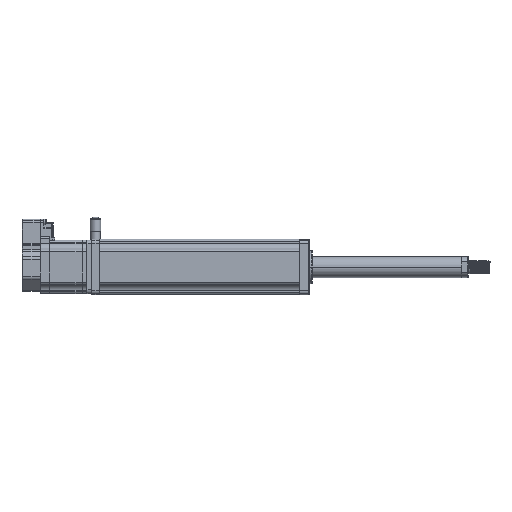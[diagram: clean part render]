
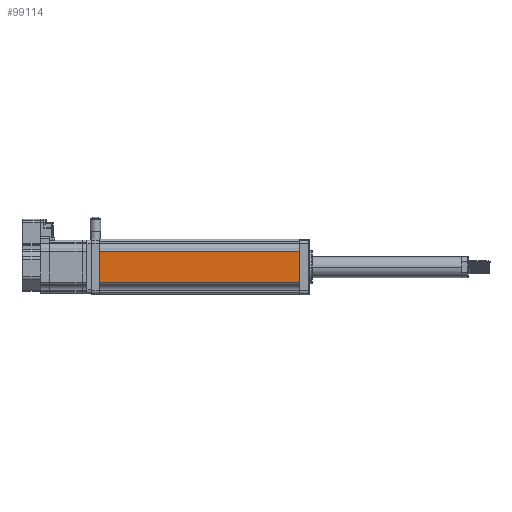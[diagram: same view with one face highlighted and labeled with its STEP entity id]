
A CAD part, front view. The second image highlights one B-rep face of the part: STEP entity #99114.
In plain terms, the highlighted planar face has unit normal (0, -1, 0).
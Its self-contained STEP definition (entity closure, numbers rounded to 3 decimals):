
#97235 = PLANE('',#97236);
#97236 = AXIS2_PLACEMENT_3D('',#97237,#97238,#97239);
#97237 = CARTESIAN_POINT('',(604.,20.655,
    -44.547));
#97238 = DIRECTION('',(-1.,0.,0.));
#97239 = DIRECTION('',(0.,-1.,0.));
#97296 = PLANE('',#97297);
#97297 = AXIS2_PLACEMENT_3D('',#97298,#97299,#97300);
#97298 = CARTESIAN_POINT('',(814.,20.655,
    -44.547));
#97299 = DIRECTION('',(-1.,0.,0.));
#97300 = DIRECTION('',(0.,-1.,0.));
#97678 = VERTEX_POINT('',#97679);
#97679 = CARTESIAN_POINT('',(814.,-37.345,
    -31.547));
#97687 = CYLINDRICAL_SURFACE('',#97688,2.5);
#97688 = AXIS2_PLACEMENT_3D('',#97689,#97690,#97691);
#97689 = CARTESIAN_POINT('',(604.,-34.845,
    -31.547));
#97690 = DIRECTION('',(-1.,0.,0.));
#97691 = DIRECTION('',(0.,-1.,0.));
#97706 = EDGE_CURVE('',#97678,#97707,#97709,.T.);
#97707 = VERTEX_POINT('',#97708);
#97708 = CARTESIAN_POINT('',(604.,-37.345,
    -31.547));
#97709 = SURFACE_CURVE('',#97710,(#97714,#97721),.PCURVE_S1.);
#97710 = LINE('',#97711,#97712);
#97711 = CARTESIAN_POINT('',(709.,-37.345,
    -31.547));
#97712 = VECTOR('',#97713,1.);
#97713 = DIRECTION('',(-1.,0.,0.));
#97714 = PCURVE('',#97687,#97715);
#97715 = DEFINITIONAL_REPRESENTATION('',(#97716),#97720);
#97716 = LINE('',#97717,#97718);
#97717 = CARTESIAN_POINT('',(6.283,-105.));
#97718 = VECTOR('',#97719,1.);
#97719 = DIRECTION('',(0.,1.));
#97720 = ( GEOMETRIC_REPRESENTATION_CONTEXT(2) 
PARAMETRIC_REPRESENTATION_CONTEXT() REPRESENTATION_CONTEXT('2D SPACE',''
  ) );
#97721 = PCURVE('',#97722,#97727);
#97722 = PLANE('',#97723);
#97723 = AXIS2_PLACEMENT_3D('',#97724,#97725,#97726);
#97724 = CARTESIAN_POINT('',(814.,-37.345,
    -31.547));
#97725 = DIRECTION('',(0.,1.,0.));
#97726 = DIRECTION('',(-1.,0.,0.));
#97727 = DEFINITIONAL_REPRESENTATION('',(#97728),#97732);
#97728 = LINE('',#97729,#97730);
#97729 = CARTESIAN_POINT('',(105.,0.));
#97730 = VECTOR('',#97731,1.);
#97731 = DIRECTION('',(1.,0.));
#97732 = ( GEOMETRIC_REPRESENTATION_CONTEXT(2) 
PARAMETRIC_REPRESENTATION_CONTEXT() REPRESENTATION_CONTEXT('2D SPACE',''
  ) );
#97794 = VERTEX_POINT('',#97795);
#97795 = CARTESIAN_POINT('',(604.,-37.345,
    0.453));
#97803 = CYLINDRICAL_SURFACE('',#97804,2.5);
#97804 = AXIS2_PLACEMENT_3D('',#97805,#97806,#97807);
#97805 = CARTESIAN_POINT('',(814.,-34.845,
    0.453));
#97806 = DIRECTION('',(1.,0.,0.));
#97807 = DIRECTION('',(0.,-1.,0.));
#97826 = EDGE_CURVE('',#97794,#97827,#97829,.T.);
#97827 = VERTEX_POINT('',#97828);
#97828 = CARTESIAN_POINT('',(814.,-37.345,
    0.453));
#97829 = SURFACE_CURVE('',#97830,(#97834,#97841),.PCURVE_S1.);
#97830 = LINE('',#97831,#97832);
#97831 = CARTESIAN_POINT('',(709.,-37.345,
    0.453));
#97832 = VECTOR('',#97833,1.);
#97833 = DIRECTION('',(1.,0.,0.));
#97834 = PCURVE('',#97803,#97835);
#97835 = DEFINITIONAL_REPRESENTATION('',(#97836),#97840);
#97836 = LINE('',#97837,#97838);
#97837 = CARTESIAN_POINT('',(6.283,-105.));
#97838 = VECTOR('',#97839,1.);
#97839 = DIRECTION('',(0.,1.));
#97840 = ( GEOMETRIC_REPRESENTATION_CONTEXT(2) 
PARAMETRIC_REPRESENTATION_CONTEXT() REPRESENTATION_CONTEXT('2D SPACE',''
  ) );
#97841 = PCURVE('',#97722,#97842);
#97842 = DEFINITIONAL_REPRESENTATION('',(#97843),#97847);
#97843 = LINE('',#97844,#97845);
#97844 = CARTESIAN_POINT('',(105.,32.));
#97845 = VECTOR('',#97846,1.);
#97846 = DIRECTION('',(-1.,0.));
#97847 = ( GEOMETRIC_REPRESENTATION_CONTEXT(2) 
PARAMETRIC_REPRESENTATION_CONTEXT() REPRESENTATION_CONTEXT('2D SPACE',''
  ) );
#98550 = EDGE_CURVE('',#97827,#97678,#98551,.T.);
#98551 = SURFACE_CURVE('',#98552,(#98556,#98563),.PCURVE_S1.);
#98552 = LINE('',#98553,#98554);
#98553 = CARTESIAN_POINT('',(814.,-37.345,
    -15.547));
#98554 = VECTOR('',#98555,1.);
#98555 = DIRECTION('',(0.,0.,-1.));
#98556 = PCURVE('',#97296,#98557);
#98557 = DEFINITIONAL_REPRESENTATION('',(#98558),#98562);
#98558 = LINE('',#98559,#98560);
#98559 = CARTESIAN_POINT('',(58.,29.));
#98560 = VECTOR('',#98561,1.);
#98561 = DIRECTION('',(0.,-1.));
#98562 = ( GEOMETRIC_REPRESENTATION_CONTEXT(2) 
PARAMETRIC_REPRESENTATION_CONTEXT() REPRESENTATION_CONTEXT('2D SPACE',''
  ) );
#98563 = PCURVE('',#97722,#98564);
#98564 = DEFINITIONAL_REPRESENTATION('',(#98565),#98569);
#98565 = LINE('',#98566,#98567);
#98566 = CARTESIAN_POINT('',(0.,16.));
#98567 = VECTOR('',#98568,1.);
#98568 = DIRECTION('',(0.,-1.));
#98569 = ( GEOMETRIC_REPRESENTATION_CONTEXT(2) 
PARAMETRIC_REPRESENTATION_CONTEXT() REPRESENTATION_CONTEXT('2D SPACE',''
  ) );
#98849 = EDGE_CURVE('',#97707,#97794,#98850,.T.);
#98850 = SURFACE_CURVE('',#98851,(#98855,#98862),.PCURVE_S1.);
#98851 = LINE('',#98852,#98853);
#98852 = CARTESIAN_POINT('',(604.,-37.345,
    -15.547));
#98853 = VECTOR('',#98854,1.);
#98854 = DIRECTION('',(0.,0.,1.));
#98855 = PCURVE('',#97235,#98856);
#98856 = DEFINITIONAL_REPRESENTATION('',(#98857),#98861);
#98857 = LINE('',#98858,#98859);
#98858 = CARTESIAN_POINT('',(58.,29.));
#98859 = VECTOR('',#98860,1.);
#98860 = DIRECTION('',(0.,1.));
#98861 = ( GEOMETRIC_REPRESENTATION_CONTEXT(2) 
PARAMETRIC_REPRESENTATION_CONTEXT() REPRESENTATION_CONTEXT('2D SPACE',''
  ) );
#98862 = PCURVE('',#97722,#98863);
#98863 = DEFINITIONAL_REPRESENTATION('',(#98864),#98868);
#98864 = LINE('',#98865,#98866);
#98865 = CARTESIAN_POINT('',(210.,16.));
#98866 = VECTOR('',#98867,1.);
#98867 = DIRECTION('',(0.,1.));
#98868 = ( GEOMETRIC_REPRESENTATION_CONTEXT(2) 
PARAMETRIC_REPRESENTATION_CONTEXT() REPRESENTATION_CONTEXT('2D SPACE',''
  ) );
#99114 = ADVANCED_FACE('',(#99115),#97722,.F.);
#99115 = FACE_BOUND('',#99116,.T.);
#99116 = EDGE_LOOP('',(#99117,#99118,#99119,#99120));
#99117 = ORIENTED_EDGE('',*,*,#97706,.F.);
#99118 = ORIENTED_EDGE('',*,*,#98550,.F.);
#99119 = ORIENTED_EDGE('',*,*,#97826,.F.);
#99120 = ORIENTED_EDGE('',*,*,#98849,.F.);
